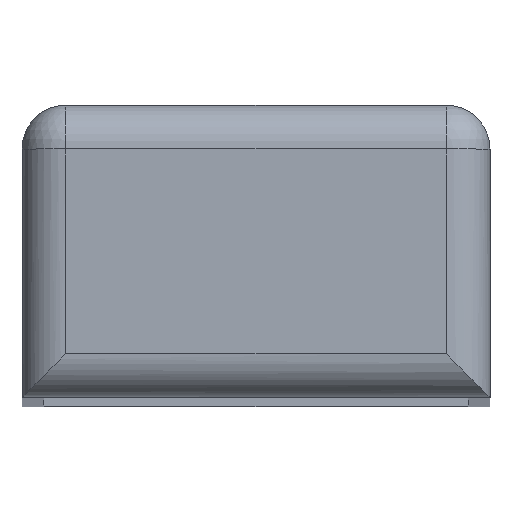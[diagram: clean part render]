
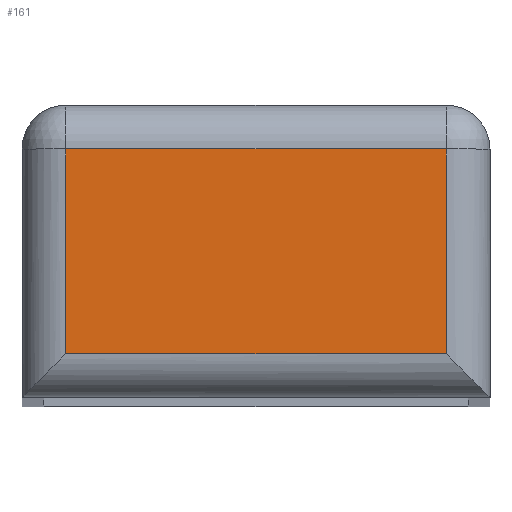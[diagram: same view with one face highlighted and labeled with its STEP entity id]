
A CAD part, top view. The second image highlights one B-rep face of the part: STEP entity #161.
In plain terms, the highlighted planar face has unit normal (0, 0, 1).
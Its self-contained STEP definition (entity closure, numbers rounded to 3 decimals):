
#161 = ADVANCED_FACE ( 'NONE', ( #891 ), #267, .T. ) ;
#169 = EDGE_CURVE ( 'NONE', #1002, #975, #297, .T. ) ;
#172 = EDGE_CURVE ( 'NONE', #995, #996, #306, .T. ) ;
#175 = EDGE_CURVE ( 'NONE', #975, #995, #315, .T. ) ;
#182 = EDGE_CURVE ( 'NONE', #996, #1002, #336, .T. ) ;
#267 = PLANE ( 'NONE',  #893 ) ;
#268 = CARTESIAN_POINT ( 'NONE',  ( -16., -20., 182. ) ) ;
#269 = DIRECTION ( 'NONE',  ( 0., 0., 1. ) ) ;
#270 = DIRECTION ( 'NONE',  ( 1., 0., 0. ) ) ;
#297 = LINE ( 'NONE', #298, #772 ) ;
#298 = CARTESIAN_POINT ( 'NONE',  ( 13., -20., 182. ) ) ;
#299 = DIRECTION ( 'NONE',  ( 0., 1., 0. ) ) ;
#306 = LINE ( 'NONE', #307, #775 ) ;
#307 = CARTESIAN_POINT ( 'NONE',  ( -13., -20., 182. ) ) ;
#308 = DIRECTION ( 'NONE',  ( 0., -1., 0. ) ) ;
#315 = LINE ( 'NONE', #316, #778 ) ;
#316 = CARTESIAN_POINT ( 'NONE',  ( -16., -3., 182. ) ) ;
#317 = DIRECTION ( 'NONE',  ( -1., 0., 0. ) ) ;
#336 = LINE ( 'NONE', #337, #785 ) ;
#337 = CARTESIAN_POINT ( 'NONE',  ( 16., -17., 182. ) ) ;
#338 = DIRECTION ( 'NONE',  ( 1., 0., 0. ) ) ;
#360 = CARTESIAN_POINT ( 'NONE',  ( 13., -3., 182. ) ) ;
#368 = CARTESIAN_POINT ( 'NONE',  ( -13., -3., 182. ) ) ;
#369 = CARTESIAN_POINT ( 'NONE',  ( -13., -17., 182. ) ) ;
#373 = CARTESIAN_POINT ( 'NONE',  ( 13., -17., 182. ) ) ;
#772 = VECTOR ( 'NONE', #299, 1000. ) ;
#775 = VECTOR ( 'NONE', #308, 1000. ) ;
#778 = VECTOR ( 'NONE', #317, 1000. ) ;
#785 = VECTOR ( 'NONE', #338, 1000. ) ;
#823 = ORIENTED_EDGE ( 'NONE', *, *, #169, .T. ) ;
#828 = ORIENTED_EDGE ( 'NONE', *, *, #172, .T. ) ;
#845 = EDGE_LOOP ( 'NONE', ( #823, #867, #828, #866 ) ) ;
#866 = ORIENTED_EDGE ( 'NONE', *, *, #182, .T. ) ;
#867 = ORIENTED_EDGE ( 'NONE', *, *, #175, .T. ) ;
#891 = FACE_OUTER_BOUND ( 'NONE', #845, .T. ) ;
#893 = AXIS2_PLACEMENT_3D ( 'NONE', #268, #269, #270 ) ;
#975 = VERTEX_POINT ( 'NONE', #360 ) ;
#995 = VERTEX_POINT ( 'NONE', #368 ) ;
#996 = VERTEX_POINT ( 'NONE', #369 ) ;
#1002 = VERTEX_POINT ( 'NONE', #373 ) ;
